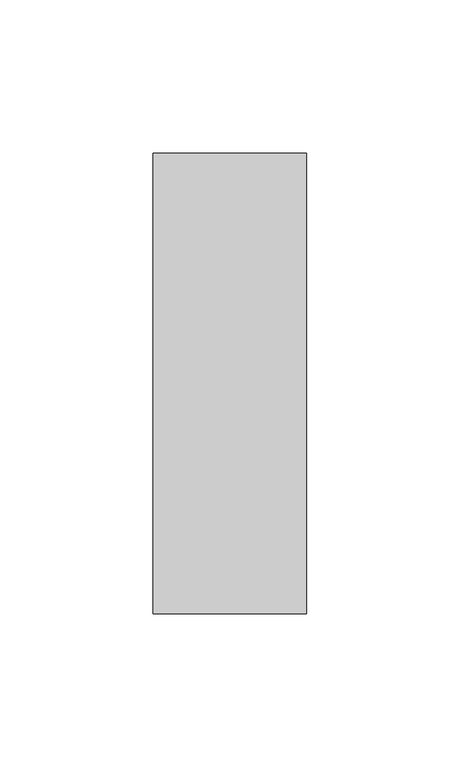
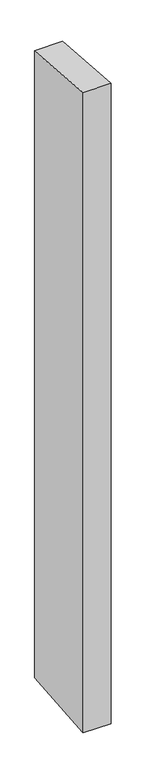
"""IFC4 building model written with IfcOpenShell, lengths in millimetres: member geometry, Прямоугольный импост : 50 x 150 мм."""

from ifc_helpers import new_model, si_unit, origin, place, context, project, spatial, faceted_brep, source, transform, mapped, element, save


def member_31d39c1a(model_context):
    return source(origin(), model_context, "Body", "Brep", [
        faceted_brep([(-25.0, 75.0, -6.3994282), (25.0, 75.0, -5.9728228), (25.0, 75.0, -1190.024126), (-25.0, 75.0, -1189.4536948), (-25.0, -75.0, 5.9728228), (-25.0, -75.0, -1202.1898055), (25.0, -75.0, 6.3994282), (25.0, -75.0, -1202.7602367)], [[[0, 1, 2, 3]], [[4, 0, 3, 5]], [[6, 4, 5, 7]], [[1, 6, 7, 2]], [[1, 0, 4, 6]], [[2, 7, 5, 3]]]),
    ])


if __name__ == "__main__":
    model = new_model("IFC4")
    model_context = context("Model", 3, world=origin())
    ifc_project = project(units=[si_unit("LENGTHUNIT", "METRE", prefix="MILLI")], contexts=[model_context])
    site = spatial("IfcSite", under=ifc_project)
    building = spatial("IfcBuilding", under=site)
    placement = place(None, origin())
    member_shape = member_31d39c1a(model_context)
    element("IfcMember", 1, ObjectType="Прямоугольный импост : 50 x 150 мм", at=placement, inside=building, context=model_context, shape_type="MappedRepresentation", body=[
        mapped(member_shape, transform((0.0, 0.0, 0.0), x_axis=(1.0, 0.0, 0.0), y_axis=(0.0, 1.0, 0.0), z_axis=(0.0, 0.0, 1.0))),
    ])
    save(model, "model.ifc")
